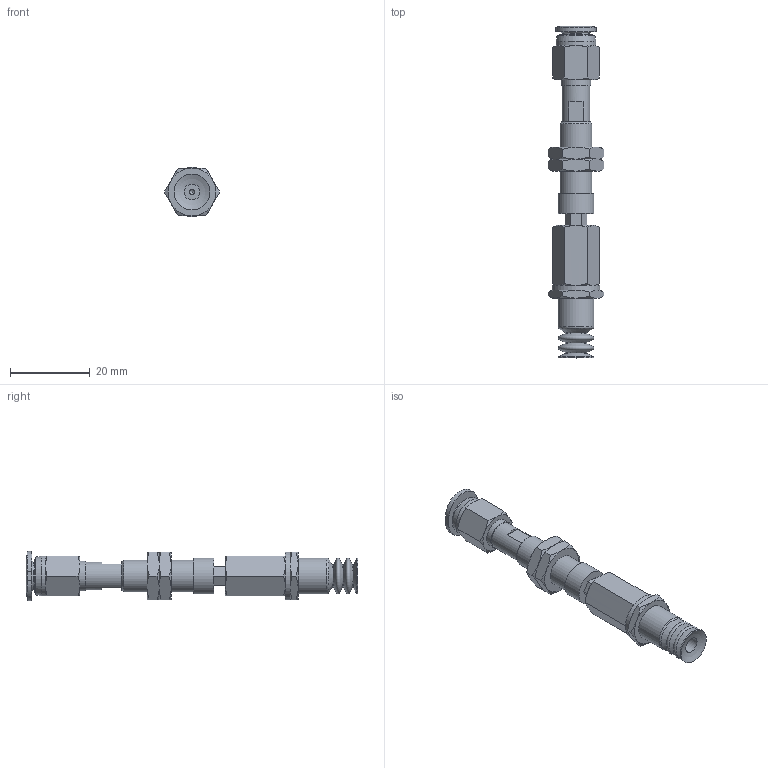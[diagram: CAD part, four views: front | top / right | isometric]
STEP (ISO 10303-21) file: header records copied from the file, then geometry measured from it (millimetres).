
FILE_DESCRIPTION(('STEP AP203'),'1');
FILE_NAME('-O.stp','2025-08-27T01:45:41',(' '),(' '),'Spatial InterOp 3D',' ',' ');
FILE_SCHEMA(('CONFIG_CONTROL_DESIGN'));
Length unit declared in the file: millimetre
Products named in the file (8): BNABPCTH-10-3-※-O; ADAPTER; NAPCTH-10-3-MBODY; Adapter_napc-10-T; Nut napc_h-10-3; NAPCTH-10-3-FBODY; BPCG-10-※; PC-C_06-M5
Assembly tree (8 placements, depth 2):
  BNABPCTH-10-3-※-O
    ADAPTER
    NAPCTH-10-3-MBODY
    Adapter_napc-10-T
    Nut napc_h-10-3  x2
    NAPCTH-10-3-FBODY
    BPCG-10-※
    PC-C_06-M5
Bounding box: 13.86 x 83.18 x 12.4 mm (x, y, z)
Volume: 4323.9 mm3; surface area: 5855.8 mm2
Topology: 7 solids, 10 shells, 203 faces, 419 edges, 248 vertices
Faces by surface type: cone 80, plane 78, cylinder 26, torus 10, bspline 4, revolution 3, sphere 2
Full cylindrical faces by diameter (mm): 1.25 x1, 4 x3, 4.134 x2, 5 x6, 7 x2, 7.188 x2, 7.4 x1, 8 x1, 8.2 x1, 9 x3, 10 x1, 12 x1
Entity records: 5416 total; most frequent: CARTESIAN_POINT 1605, DIRECTION 703, ORIENTED_EDGE 618, EDGE_CURVE 311, AXIS2_PLACEMENT_3D 310, EDGE_LOOP 258, VERTEX_POINT 216, FACE_OUTER_BOUND 155
